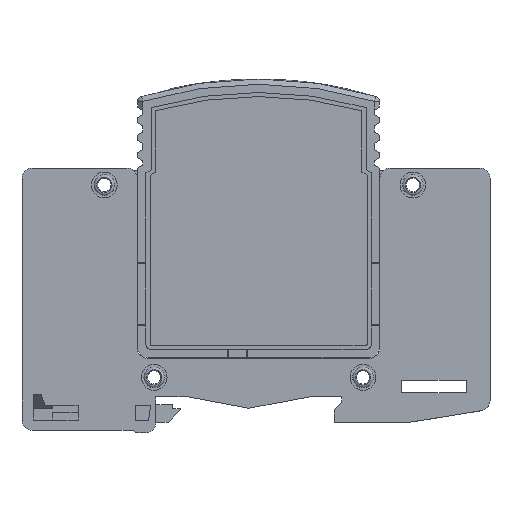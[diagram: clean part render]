
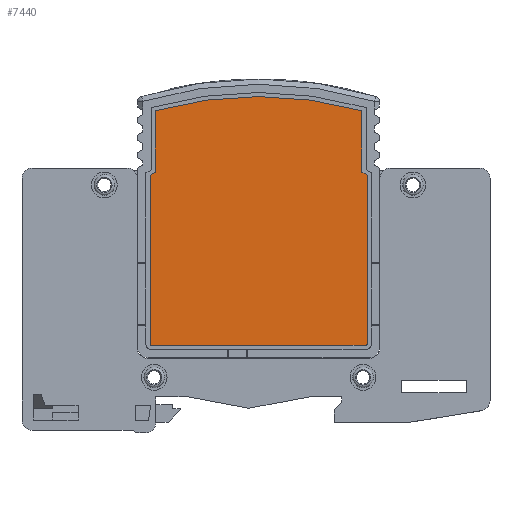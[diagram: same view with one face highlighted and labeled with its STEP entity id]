
A CAD part, front view. The second image highlights one B-rep face of the part: STEP entity #7440.
In plain terms, the highlighted planar face has unit normal (0, -1, 0).
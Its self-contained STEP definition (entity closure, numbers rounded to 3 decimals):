
#7440=ADVANCED_FACE('',(#25518),#25520,.F.);
#25518=FACE_BOUND('',#25519,.T.);
#25519=EDGE_LOOP('',(#40617,#40618,#40619,#40620,#40621,#40622,#40623,#40624,#40625,
#40626));
#25520=PLANE('',#25521);
#25521=AXIS2_PLACEMENT_3D('',#25522,#25523,#25524);
#25522=CARTESIAN_POINT('',(0.,0.,0.));
#25523=DIRECTION('',(0.,1.,0.));
#25524=DIRECTION('',(-1.,0.,0.));
#40617=ORIENTED_EDGE('',*,*,#52246,.T.);
#40618=ORIENTED_EDGE('',*,*,#52265,.T.);
#40619=ORIENTED_EDGE('',*,*,#52263,.T.);
#40620=ORIENTED_EDGE('',*,*,#52261,.T.);
#40621=ORIENTED_EDGE('',*,*,#52259,.T.);
#40622=ORIENTED_EDGE('',*,*,#52257,.T.);
#40623=ORIENTED_EDGE('',*,*,#52255,.T.);
#40624=ORIENTED_EDGE('',*,*,#52253,.T.);
#40625=ORIENTED_EDGE('',*,*,#52251,.T.);
#40626=ORIENTED_EDGE('',*,*,#52249,.T.);
#52246=EDGE_CURVE('',#61836,#61837,#61838,.T.);
#52249=EDGE_CURVE('',#61841,#61836,#61842,.F.);
#52251=EDGE_CURVE('',#61844,#61841,#61845,.T.);
#52253=EDGE_CURVE('',#61847,#61844,#61848,.T.);
#52255=EDGE_CURVE('',#61850,#61847,#61851,.T.);
#52257=EDGE_CURVE('',#61853,#61850,#61854,.F.);
#52259=EDGE_CURVE('',#61856,#61853,#61857,.T.);
#52261=EDGE_CURVE('',#61859,#61856,#61860,.T.);
#52263=EDGE_CURVE('',#61862,#61859,#61863,.T.);
#52265=EDGE_CURVE('',#61837,#61862,#61865,.F.);
#61836=VERTEX_POINT('',#93019);
#61837=VERTEX_POINT('',#93020);
#61838=LINE('',#93021,#93022);
#61841=VERTEX_POINT('',#93030);
#61842=CIRCLE('',#93031,0.2);
#61844=VERTEX_POINT('',#93038);
#61845=LINE('',#93039,#93040);
#61847=VERTEX_POINT('',#93045);
#61848=LINE('',#93046,#93047);
#61850=VERTEX_POINT('',#93052);
#61851=LINE('',#93053,#93054);
#61853=VERTEX_POINT('',#93059);
#61854=CIRCLE('',#93060,75.101);
#61856=VERTEX_POINT('',#93067);
#61857=LINE('',#93068,#93069);
#61859=VERTEX_POINT('',#93074);
#61860=LINE('',#93075,#93076);
#61862=VERTEX_POINT('',#93081);
#61863=LINE('',#93082,#93083);
#61865=CIRCLE('',#93088,0.2);
#93019=CARTESIAN_POINT('',(-20.4,0.,-9.));
#93020=CARTESIAN_POINT('',(21.4,0.,-9.));
#93021=CARTESIAN_POINT('',(-20.4,0.,-9.));
#93022=VECTOR('',#93023,1.);
#93023=DIRECTION('',(1.,0.,0.));
#93030=CARTESIAN_POINT('',(-20.6,0.,-8.8));
#93031=AXIS2_PLACEMENT_3D('',#93032,#93033,#93034);
#93032=CARTESIAN_POINT('',(-20.4,0.,-8.8));
#93033=DIRECTION('',(0.,1.,0.));
#93034=DIRECTION('',(0.,0.,-1.));
#93038=CARTESIAN_POINT('',(-20.6,0.,24.114));
#93039=CARTESIAN_POINT('',(-20.6,0.,24.114));
#93040=VECTOR('',#93041,1.);
#93041=DIRECTION('',(0.,0.,-1.));
#93045=CARTESIAN_POINT('',(-19.6,0.,24.692));
#93046=CARTESIAN_POINT('',(-19.6,0.,24.692));
#93047=VECTOR('',#93048,1.);
#93048=DIRECTION('',(-0.866,0.,-0.5));
#93052=CARTESIAN_POINT('',(-19.6,0.,36.66));
#93053=CARTESIAN_POINT('',(-19.6,0.,36.66));
#93054=VECTOR('',#93055,1.);
#93055=DIRECTION('',(0.,0.,-1.));
#93059=CARTESIAN_POINT('',(20.6,0.,36.66));
#93060=AXIS2_PLACEMENT_3D('',#93061,#93062,#93063);
#93061=CARTESIAN_POINT('',(0.5,0.,-35.701));
#93062=DIRECTION('',(0.,1.,0.));
#93063=DIRECTION('',(-0.268,0.,0.964));
#93067=CARTESIAN_POINT('',(20.6,0.,24.692));
#93068=CARTESIAN_POINT('',(20.6,0.,24.692));
#93069=VECTOR('',#93070,1.);
#93070=DIRECTION('',(0.,0.,1.));
#93074=CARTESIAN_POINT('',(21.6,0.,24.114));
#93075=CARTESIAN_POINT('',(21.6,0.,24.114));
#93076=VECTOR('',#93077,1.);
#93077=DIRECTION('',(-0.866,0.,0.5));
#93081=CARTESIAN_POINT('',(21.6,0.,-8.8));
#93082=CARTESIAN_POINT('',(21.6,0.,-8.8));
#93083=VECTOR('',#93084,1.);
#93084=DIRECTION('',(0.,0.,1.));
#93088=AXIS2_PLACEMENT_3D('',#93089,#93090,#93091);
#93089=CARTESIAN_POINT('',(21.4,0.,-8.8));
#93090=DIRECTION('',(-0.,1.,0.));
#93091=DIRECTION('',(1.,0.,0.));
